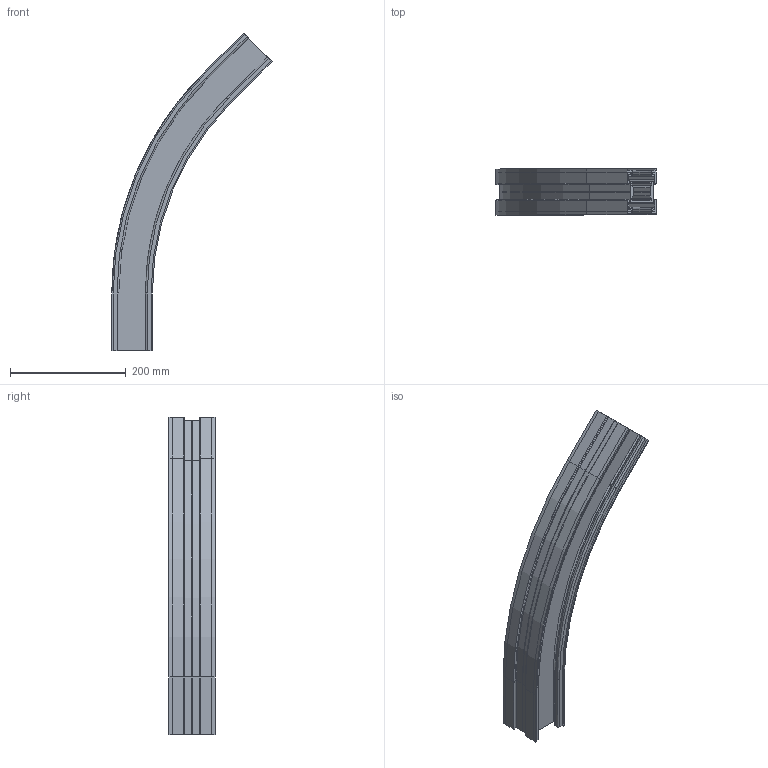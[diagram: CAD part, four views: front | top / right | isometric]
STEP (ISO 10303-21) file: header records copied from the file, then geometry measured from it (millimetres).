
FILE_DESCRIPTION (( 'STEP AP203' ), '1' );
FILE_NAME ('R1C500-45.STEP', '2008-11-24T14:39:37', ( 'faber' ), ( '' ), 'SwSTEP 2.0', 'SolidWorks 2008', '' );
FILE_SCHEMA (( 'CONFIG_CONTROL_DESIGN' ));
Length unit declared in the file: millimetre
Products named in the file (1): R1C500-45
Bounding box: 276.91 x 79.8 x 549.01 mm (x, y, z)
Surface area: 365036.1 mm2 (no closed solid volume)
Topology: 0 solids, 5 shells, 208 faces, 645 edges, 434 vertices
Faces by surface type: plane 108, cylinder 72, bspline 20, cone 8
Entity records: 8068 total; most frequent: CARTESIAN_POINT 2356, DIRECTION 1173, ORIENTED_EDGE 1100, EDGE_CURVE 645, LINE 463, VECTOR 463, VERTEX_POINT 434, AXIS2_PLACEMENT_3D 355
